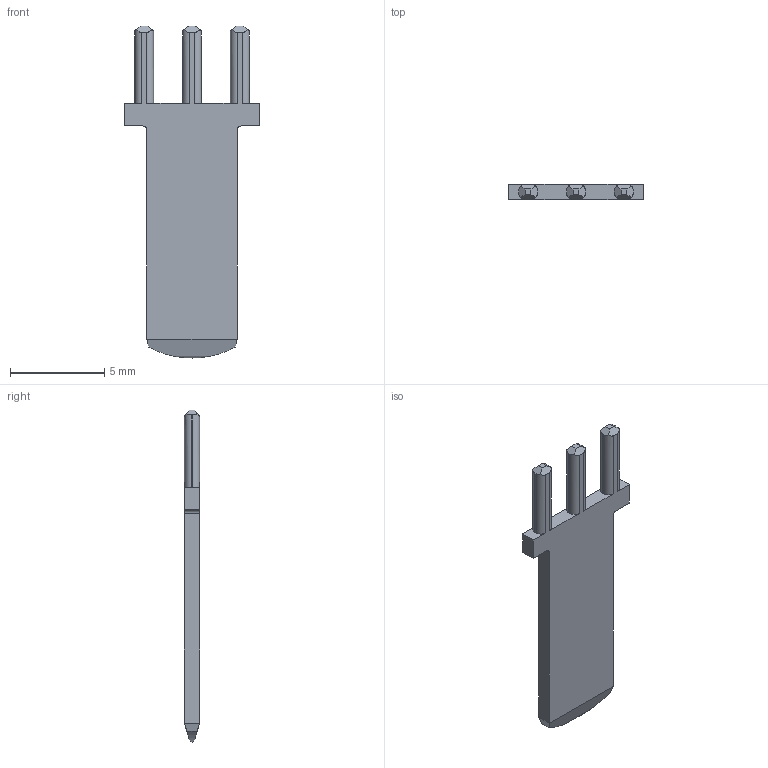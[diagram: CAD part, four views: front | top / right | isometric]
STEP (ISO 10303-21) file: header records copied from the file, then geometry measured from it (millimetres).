
FILE_DESCRIPTION((''),'2;1');
FILE_NAME('C-1-1452719-3','2010-02-05T',('workeradm'),(''),'PRO/ENGINEER BY PARAMETRIC TECHNOLOGY CORPORATION, 2008380','PRO/ENGINEER BY PARAMETRIC TECHNOLOGY CORPORATION, 2008380','');
FILE_SCHEMA(('AUTOMOTIVE_DESIGN { 1 0 10303 214 1 1 1 1 }'));
Length unit declared in the file: millimetre
Products named in the file (1): C-1-1452719-3
Bounding box: 7.2 x 0.8 x 17.6 mm (x, y, z)
Volume: 60.7 mm3; surface area: 198.5 mm2
Topology: 1 solids, 1 shells, 55 faces, 154 edges, 101 vertices
Faces by surface type: plane 37, cylinder 18
Entity records: 1847 total; most frequent: CARTESIAN_POINT 438, ORIENTED_EDGE 308, DIRECTION 248, EDGE_CURVE 154, VECTOR 106, LINE 106, VERTEX_POINT 101, AXIS2_PLACEMENT_3D 71
